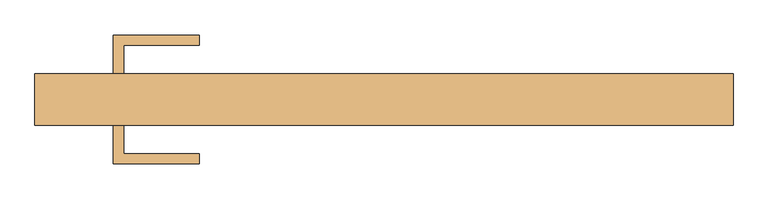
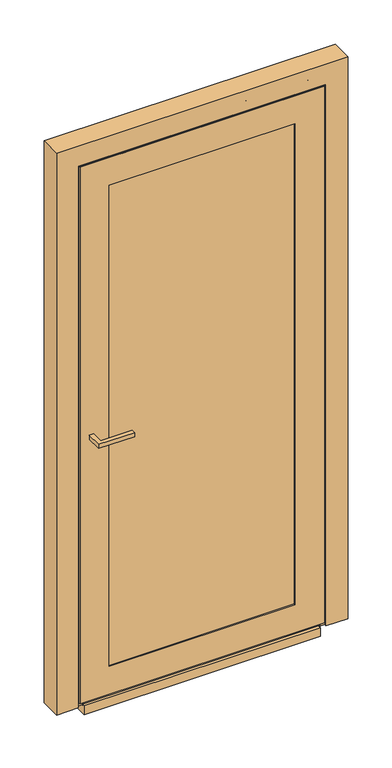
"""IFC4 building model written with IfcOpenShell, lengths in millimetres: door geometry, Reynaers_MasterLine 8_Door_Pivot_Inward Opening_Single Vent_Glass : Reynaers_MasterLine 8_Door_Pivot_Inward Opening_Single Vent_Glass."""

from ifc_helpers import new_model, si_unit, frame, origin, place, context, project, spatial, polyline, circle_curve, ellipse_curve, outline, extrude, faceted_brep, source, transform, mapped, element, save
from ifc_brep_helpers import plane_surface, revolved_surface, advanced_brep


def door_3bcb3462(model_context):
    return source(origin(), model_context, "Body", "SolidModel", [
        extrude(outline(polyline([(-403.0, -80.0), (-388.0, -80.0), (-388.0, -122.5), (-275.5, -122.5), (-275.5, -137.5), (-403.0, -137.5), (-403.0, -80.0)])), frame((0.0, 0.0, 1000.0), z_axis=(0.0, 0.0, 1.0), x_axis=(1.0, 0.0, 0.0)), (0.0, 0.0, 1.0), 15.0),
        extrude(outline(polyline([(-403.0, -3.0), (-403.0, 54.5), (-275.5, 54.5), (-275.5, 39.5), (-388.0, 39.5), (-388.0, -3.0), (-403.0, -3.0)])), frame((0.0, 0.0, 1000.0), z_axis=(0.0, 0.0, 1.0), x_axis=(1.0, 0.0, 0.0)), (0.0, 0.0, 1.0), 15.0),
        advanced_brep(
        [(-444.4999999, -71.1998182, 0.0), (-444.4999999, -13.5000019, 0.0), (-447.5000018, -13.5000019, 0.0), (-447.5000018, -4.7990019, 0.0), (-452.5005018, -4.7990019, 0.0), (-452.5005018, -6.8000019, 0.0), (-462.5005018, -6.8000019, 0.0), (-462.5005018, -3.0, 0.0), (-416.5000018, -3.0, 0.0), (-416.5000018, -11.8001867, 0.0), (-418.6670221, -11.8001867, 0.0), (-421.4999998, -12.9155527, 0.0), (-421.4999998, -74.9998182, 0.0), (-423.6999999, -74.9998182, 0.0), (-423.6999999, -71.1998182, 0.0), (200.0, -71.1998182, 2044.4999999), (200.0, -71.1998182, 2023.6999999), (200.0, -74.9998182, 2023.6999999), (200.0, -74.9998182, 2021.4999998), (200.0, -12.9155527, 2021.4999998), (200.0, -11.8001867, 2018.6670221), (200.0, -11.8001867, 2016.5000018), (200.0, -3.0, 2016.5000018), (200.0, -3.0, 2047.5000018), (200.0, -13.5000019, 2047.5000018), (200.0, -13.5000019, 2044.4999999), (-423.6999999, -71.1998182, 2023.6999999), (-423.6999999, -74.9998182, 2023.6999999), (-421.4999998, -74.9998182, 2021.4999998), (-421.4999998, -12.9155527, 2021.4999998), (-418.6670221, -11.8001867, 2018.6670221), (-416.5000018, -11.8001867, 2016.5000018), (-416.5000018, -3.0, 2016.5000018), (-462.5005018, -6.8000019, 2062.5005018), (123.0, -6.8000019, 2062.5005018), (123.0, -3.0, 2062.5005018), (-462.5005018, -3.0, 2062.5005018), (-452.5005018, -4.7990019, 2052.5005018), (123.0, -4.7990019, 2052.5005018), (123.0, -6.8000019, 2052.5005018), (-452.5005018, -6.8000019, 2052.5005018), (123.0, -3.0, 2047.5000018), (123.0, -4.7990019, 2047.5000018), (-447.5000018, -4.7990019, 2047.5000018), (-447.5000018, -13.5000019, 2047.5000018), (-444.4999999, -13.5000019, 2044.4999999), (-444.4999999, -71.1998182, 2044.4999999)],
        [
            (0, 1),
            (1, 2),
            (2, 3),
            (3, 4),
            (4, 5),
            (5, 6),
            (6, 7),
            (7, 8),
            (8, 9),
            (9, 10),
            (10, 11, circle_curve(frame((-420.500002, -11.3000019, 0.0), z_axis=(0.0, 0.0, 1.0), x_axis=(1.0, 0.0, 0.0)), 1.9)),
            (11, 12),
            (12, 13),
            (13, 14),
            (14, 0),
            (15, 16),
            (16, 17),
            (17, 18),
            (18, 19),
            (19, 20, circle_curve(frame((200.0, -11.3000019, 2020.500002), z_axis=(-1.0, 0.0, 0.0), x_axis=(0.0, 0.0, -1.0)), 1.9)),
            (20, 21),
            (21, 22),
            (22, 23),
            (23, 24),
            (24, 25),
            (25, 15),
            (16, 26),
            (26, 27),
            (27, 17),
            (18, 28),
            (28, 29),
            (29, 19),
            (29, 30, ellipse_curve(frame((-420.500002, -11.3000019, 2020.500002), z_axis=(-0.7071067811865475, 0.0, -0.7071067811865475), x_axis=(0.7071067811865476, 0.0, -0.7071067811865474)), 2.6870058, 1.9)),
            (30, 20),
            (21, 31),
            (31, 32),
            (32, 22),
            (33, 34),
            (34, 35),
            (35, 36),
            (36, 33),
            (37, 38),
            (38, 39),
            (39, 40),
            (40, 37),
            (23, 41),
            (41, 42),
            (42, 43),
            (43, 44),
            (44, 24),
            (25, 45),
            (45, 46),
            (46, 15),
            (14, 26),
            (46, 0),
            (13, 27),
            (12, 28),
            (11, 29),
            (10, 30),
            (9, 31),
            (8, 32),
            (7, 36),
            (35, 41),
            (6, 33),
            (5, 40),
            (39, 34),
            (4, 37),
            (3, 43),
            (42, 38),
            (2, 44),
            (1, 45),
        ],
        [
            plane_surface(frame((-436.5, -3.0, 0.0), z_axis=(0.0, 0.0, -1.0), x_axis=(0.0, -1.0, 0.0))),
            plane_surface(frame((200.0, -3.0, 2036.5), z_axis=(1.0, 0.0, 0.0), x_axis=(0.0, -1.0, 0.0))),
            plane_surface(frame((-423.6999999, -71.1998182, 2023.6999999), z_axis=(0.0, 0.0, 1.0), x_axis=(1.0, 0.0, 0.0))),
            plane_surface(frame((-421.4999998, -74.9998182, 2021.4999998), z_axis=(0.0, 0.0, -1.0), x_axis=(1.0, 0.0, 0.0))),
            revolved_surface(polyline([(200.0, -11.3000019, 2018.600002), (-422.4000020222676, -11.3000019, 2018.600002)]), (-436.5, -11.3000019, 2020.500002), (1.0, 0.0, 0.0)),
            plane_surface(frame((-416.5000018, -11.8001867, 2016.5000018), z_axis=(0.0, 0.0, -1.0), x_axis=(1.0, 0.0, 0.0))),
            plane_surface(frame((-462.5005018, -3.0, 2062.5005018), z_axis=(0.0, 0.0, 1.0), x_axis=(1.0, 0.0, 0.0))),
            plane_surface(frame((-452.5005018, -6.8000019, 2052.5005018), z_axis=(0.0, 0.0, -1.0), x_axis=(1.0, 0.0, 0.0))),
            plane_surface(frame((-447.5000018, -4.7990019, 2047.5000018), z_axis=(0.0, 0.0, 1.0), x_axis=(1.0, 0.0, 0.0))),
            plane_surface(frame((-444.4999999, -13.5000019, 2044.4999999), z_axis=(0.0, 0.0, 1.0), x_axis=(1.0, 0.0, 0.0))),
            plane_surface(frame((-444.4999999, -71.1998182, 0.0), z_axis=(0.0, -1.0, 0.0), x_axis=(0.0, 0.0, 1.0))),
            plane_surface(frame((-423.6999999, -71.1998182, 0.0), z_axis=(-1.0, 0.0, 0.0), x_axis=(0.0, 0.0, 1.0))),
            plane_surface(frame((-423.6999999, -74.9998182, 0.0), z_axis=(0.0, -1.0, 0.0), x_axis=(0.0, 0.0, 1.0))),
            plane_surface(frame((-421.4999998, -74.9998182, 0.0), z_axis=(1.0, 0.0, 0.0), x_axis=(0.0, 0.0, 1.0))),
            revolved_surface(polyline([(-418.600002, -11.3000019, 2022.4000020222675), (-418.600002, -11.3000019, 0.0)]), (-420.500002, -11.3000019, 0.0), (0.0, 0.0, 1.0)),
            plane_surface(frame((-418.6670221, -11.8001867, 0.0), z_axis=(0.0, -1.0, 0.0), x_axis=(0.0, 0.0, 1.0))),
            plane_surface(frame((-416.5000018, -11.8001867, 0.0), z_axis=(1.0, 0.0, 0.0), x_axis=(0.0, 0.0, 1.0))),
            plane_surface(frame((-416.5000018, -3.0, 0.0), z_axis=(0.0, 1.0, 0.0), x_axis=(0.0, 0.0, 1.0))),
            plane_surface(frame((-462.5005018, -3.0, 0.0), z_axis=(-1.0, 0.0, 0.0), x_axis=(0.0, 0.0, 1.0))),
            plane_surface(frame((-462.5005018, -6.8000019, 0.0), z_axis=(0.0, -1.0, 0.0), x_axis=(0.0, 0.0, 1.0))),
            plane_surface(frame((-452.5005018, -6.8000019, 0.0), z_axis=(1.0, 0.0, 0.0), x_axis=(0.0, 0.0, 1.0))),
            plane_surface(frame((-452.5005018, -4.7990019, 0.0), z_axis=(0.0, -1.0, 0.0), x_axis=(0.0, 0.0, 1.0))),
            plane_surface(frame((-447.5000018, -4.7990019, 0.0), z_axis=(-1.0, 0.0, 0.0), x_axis=(0.0, 0.0, 1.0))),
            plane_surface(frame((-447.5000018, -13.5000019, 0.0), z_axis=(0.0, -1.0, 0.0), x_axis=(0.0, 0.0, 1.0))),
            plane_surface(frame((-444.4999999, -13.5000019, 0.0), z_axis=(-1.0, 0.0, 0.0), x_axis=(0.0, 0.0, 1.0))),
            plane_surface(frame((123.0, -3.0, 2036.5), z_axis=(1.0, 0.0, 0.0), x_axis=(0.0, -1.0, 0.0))),
        ],
        [
            (0, [[1, 2, 3, 4, 5, 6, 7, 8, 9, 10, 11, 12, 13, 14, 15]]),
            (1, [[16, 17, 18, 19, 20, 21, 22, 23, 24, 25, 26]]),
            (2, [[27, 28, 29, -17]]),
            (3, [[30, 31, 32, -19]]),
            (4, [[-32, 33, 34, -20]]),
            (5, [[35, 36, 37, -22]]),
            (6, [[38, 39, 40, 41]]),
            (7, [[42, 43, 44, 45]]),
            (8, [[-24, 46, 47, 48, 49, 50]]),
            (9, [[51, 52, 53, -26]]),
            (10, [[54, -27, -16, -53, 55, -15]]),
            (11, [[56, -28, -54, -14]]),
            (12, [[57, -30, -18, -29, -56, -13]]),
            (13, [[58, -31, -57, -12]]),
            (14, [[59, -33, -58, -11]]),
            (15, [[60, -35, -21, -34, -59, -10]]),
            (16, [[61, -36, -60, -9]]),
            (17, [[62, -40, 63, -46, -23, -37, -61, -8]]),
            (18, [[64, -41, -62, -7]]),
            (19, [[65, -44, 66, -38, -64, -6]]),
            (20, [[67, -45, -65, -5]]),
            (21, [[68, -48, 69, -42, -67, -4]]),
            (22, [[70, -49, -68, -3]]),
            (23, [[71, -51, -25, -50, -70, -2]]),
            (24, [[-55, -52, -71, -1]]),
            (25, [[-63, -39, -66, -43, -69, -47]]),
        ],
    ),
        advanced_brep(
        [(-444.4999999, -71.1998182, 0.0), (-444.4999999, -13.5000019, 0.0), (-447.5000018, -13.5000019, 0.0), (-447.5000018, -4.7990019, 0.0), (-452.5005018, -4.7990019, 0.0), (-452.5005018, -6.8000019, 0.0), (-462.5005018, -6.8000019, 0.0), (-462.5005018, -3.0, 0.0), (-416.5000018, -3.0, 0.0), (-416.5000018, -11.8001867, 0.0), (-418.6670221, -11.8001867, 0.0), (-421.4999998, -12.9155527, 0.0), (-421.4999998, -74.9998182, 0.0), (-423.6999999, -74.9998182, 0.0), (-423.6999999, -71.1998182, 0.0), (200.0, -71.1998182, 2044.4999999), (200.0, -71.1998182, 2023.6999999), (200.0, -74.9998182, 2023.6999999), (200.0, -74.9998182, 2021.4999998), (200.0, -12.9155527, 2021.4999998), (200.0, -11.8001867, 2018.6670221), (200.0, -11.8001867, 2016.5000018), (200.0, -3.0, 2016.5000018), (200.0, -3.0, 2047.5000018), (200.0, -13.5000019, 2047.5000018), (200.0, -13.5000019, 2044.4999999), (-423.6999999, -71.1998182, 2023.6999999), (-423.6999999, -74.9998182, 2023.6999999), (-421.4999998, -74.9998182, 2021.4999998), (-421.4999998, -12.9155527, 2021.4999998), (-418.6670221, -11.8001867, 2018.6670221), (-416.5000018, -11.8001867, 2016.5000018), (-416.5000018, -3.0, 2016.5000018), (-462.5005018, -6.8000019, 2062.5005018), (123.0, -6.8000019, 2062.5005018), (123.0, -3.0, 2062.5005018), (-462.5005018, -3.0, 2062.5005018), (-452.5005018, -4.7990019, 2052.5005018), (123.0, -4.7990019, 2052.5005018), (123.0, -6.8000019, 2052.5005018), (-452.5005018, -6.8000019, 2052.5005018), (123.0, -3.0, 2047.5000018), (123.0, -4.7990019, 2047.5000018), (-447.5000018, -4.7990019, 2047.5000018), (-447.5000018, -13.5000019, 2047.5000018), (-444.4999999, -13.5000019, 2044.4999999), (-444.4999999, -71.1998182, 2044.4999999)],
        [
            (0, 1),
            (1, 2),
            (2, 3),
            (3, 4),
            (4, 5),
            (5, 6),
            (6, 7),
            (7, 8),
            (8, 9),
            (9, 10),
            (10, 11, circle_curve(frame((-420.500002, -11.3000019, 0.0), z_axis=(0.0, 0.0, 1.0), x_axis=(1.0, 0.0, 0.0)), 1.9)),
            (11, 12),
            (12, 13),
            (13, 14),
            (14, 0),
            (15, 16),
            (16, 17),
            (17, 18),
            (18, 19),
            (19, 20, circle_curve(frame((200.0, -11.3000019, 2020.500002), z_axis=(-1.0, 0.0, 0.0), x_axis=(0.0, 0.0, -1.0)), 1.9)),
            (20, 21),
            (21, 22),
            (22, 23),
            (23, 24),
            (24, 25),
            (25, 15),
            (16, 26),
            (26, 27),
            (27, 17),
            (18, 28),
            (28, 29),
            (29, 19),
            (29, 30, ellipse_curve(frame((-420.500002, -11.3000019, 2020.500002), z_axis=(-0.7071067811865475, 0.0, -0.7071067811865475), x_axis=(0.7071067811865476, 0.0, -0.7071067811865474)), 2.6870058, 1.9)),
            (30, 20),
            (21, 31),
            (31, 32),
            (32, 22),
            (33, 34),
            (34, 35),
            (35, 36),
            (36, 33),
            (37, 38),
            (38, 39),
            (39, 40),
            (40, 37),
            (23, 41),
            (41, 42),
            (42, 43),
            (43, 44),
            (44, 24),
            (25, 45),
            (45, 46),
            (46, 15),
            (14, 26),
            (46, 0),
            (13, 27),
            (12, 28),
            (11, 29),
            (10, 30),
            (9, 31),
            (8, 32),
            (7, 36),
            (35, 41),
            (6, 33),
            (5, 40),
            (39, 34),
            (4, 37),
            (3, 43),
            (42, 38),
            (2, 44),
            (1, 45),
        ],
        [
            plane_surface(frame((-436.5, -3.0, 0.0), z_axis=(0.0, 0.0, -1.0), x_axis=(0.0, -1.0, 0.0))),
            plane_surface(frame((200.0, -3.0, 2036.5), z_axis=(1.0, 0.0, 0.0), x_axis=(0.0, -1.0, 0.0))),
            plane_surface(frame((-423.6999999, -71.1998182, 2023.6999999), z_axis=(0.0, 0.0, 1.0), x_axis=(1.0, 0.0, 0.0))),
            plane_surface(frame((-421.4999998, -74.9998182, 2021.4999998), z_axis=(0.0, 0.0, -1.0), x_axis=(1.0, 0.0, 0.0))),
            revolved_surface(polyline([(200.0, -11.3000019, 2018.600002), (-422.4000020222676, -11.3000019, 2018.600002)]), (-436.5, -11.3000019, 2020.500002), (1.0, 0.0, 0.0)),
            plane_surface(frame((-416.5000018, -11.8001867, 2016.5000018), z_axis=(0.0, 0.0, -1.0), x_axis=(1.0, 0.0, 0.0))),
            plane_surface(frame((-462.5005018, -3.0, 2062.5005018), z_axis=(0.0, 0.0, 1.0), x_axis=(1.0, 0.0, 0.0))),
            plane_surface(frame((-452.5005018, -6.8000019, 2052.5005018), z_axis=(0.0, 0.0, -1.0), x_axis=(1.0, 0.0, 0.0))),
            plane_surface(frame((-447.5000018, -4.7990019, 2047.5000018), z_axis=(0.0, 0.0, 1.0), x_axis=(1.0, 0.0, 0.0))),
            plane_surface(frame((-444.4999999, -13.5000019, 2044.4999999), z_axis=(0.0, 0.0, 1.0), x_axis=(1.0, 0.0, 0.0))),
            plane_surface(frame((-444.4999999, -71.1998182, 0.0), z_axis=(0.0, -1.0, 0.0), x_axis=(0.0, 0.0, 1.0))),
            plane_surface(frame((-423.6999999, -71.1998182, 0.0), z_axis=(-1.0, 0.0, 0.0), x_axis=(0.0, 0.0, 1.0))),
            plane_surface(frame((-423.6999999, -74.9998182, 0.0), z_axis=(0.0, -1.0, 0.0), x_axis=(0.0, 0.0, 1.0))),
            plane_surface(frame((-421.4999998, -74.9998182, 0.0), z_axis=(1.0, 0.0, 0.0), x_axis=(0.0, 0.0, 1.0))),
            revolved_surface(polyline([(-418.600002, -11.3000019, 2022.4000020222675), (-418.600002, -11.3000019, 0.0)]), (-420.500002, -11.3000019, 0.0), (0.0, 0.0, 1.0)),
            plane_surface(frame((-418.6670221, -11.8001867, 0.0), z_axis=(0.0, -1.0, 0.0), x_axis=(0.0, 0.0, 1.0))),
            plane_surface(frame((-416.5000018, -11.8001867, 0.0), z_axis=(1.0, 0.0, 0.0), x_axis=(0.0, 0.0, 1.0))),
            plane_surface(frame((-416.5000018, -3.0, 0.0), z_axis=(0.0, 1.0, 0.0), x_axis=(0.0, 0.0, 1.0))),
            plane_surface(frame((-462.5005018, -3.0, 0.0), z_axis=(-1.0, 0.0, 0.0), x_axis=(0.0, 0.0, 1.0))),
            plane_surface(frame((-462.5005018, -6.8000019, 0.0), z_axis=(0.0, -1.0, 0.0), x_axis=(0.0, 0.0, 1.0))),
            plane_surface(frame((-452.5005018, -6.8000019, 0.0), z_axis=(1.0, 0.0, 0.0), x_axis=(0.0, 0.0, 1.0))),
            plane_surface(frame((-452.5005018, -4.7990019, 0.0), z_axis=(0.0, -1.0, 0.0), x_axis=(0.0, 0.0, 1.0))),
            plane_surface(frame((-447.5000018, -4.7990019, 0.0), z_axis=(-1.0, 0.0, 0.0), x_axis=(0.0, 0.0, 1.0))),
            plane_surface(frame((-447.5000018, -13.5000019, 0.0), z_axis=(0.0, -1.0, 0.0), x_axis=(0.0, 0.0, 1.0))),
            plane_surface(frame((-444.4999999, -13.5000019, 0.0), z_axis=(-1.0, 0.0, 0.0), x_axis=(0.0, 0.0, 1.0))),
            plane_surface(frame((123.0, -3.0, 2036.5), z_axis=(1.0, 0.0, 0.0), x_axis=(0.0, -1.0, 0.0))),
        ],
        [
            (0, [[1, 2, 3, 4, 5, 6, 7, 8, 9, 10, 11, 12, 13, 14, 15]]),
            (1, [[16, 17, 18, 19, 20, 21, 22, 23, 24, 25, 26]]),
            (2, [[27, 28, 29, -17]]),
            (3, [[30, 31, 32, -19]]),
            (4, [[-32, 33, 34, -20]]),
            (5, [[35, 36, 37, -22]]),
            (6, [[38, 39, 40, 41]]),
            (7, [[42, 43, 44, 45]]),
            (8, [[-24, 46, 47, 48, 49, 50]]),
            (9, [[51, 52, 53, -26]]),
            (10, [[54, -27, -16, -53, 55, -15]]),
            (11, [[56, -28, -54, -14]]),
            (12, [[57, -30, -18, -29, -56, -13]]),
            (13, [[58, -31, -57, -12]]),
            (14, [[59, -33, -58, -11]]),
            (15, [[60, -35, -21, -34, -59, -10]]),
            (16, [[61, -36, -60, -9]]),
            (17, [[62, -40, 63, -46, -23, -37, -61, -8]]),
            (18, [[64, -41, -62, -7]]),
            (19, [[65, -44, 66, -38, -64, -6]]),
            (20, [[67, -45, -65, -5]]),
            (21, [[68, -48, 69, -42, -67, -4]]),
            (22, [[70, -49, -68, -3]]),
            (23, [[71, -51, -25, -50, -70, -2]]),
            (24, [[-55, -52, -71, -1]]),
            (25, [[-63, -39, -66, -43, -69, -47]]),
        ],
    ),
        advanced_brep(
        [(123.0, -3.0, 2062.5005018), (123.0, -3.0, 2047.5000018), (123.0, -4.7990019, 2047.5000018), (123.0, -4.7990019, 2052.5005018), (123.0, -6.8000019, 2052.5005018), (123.0, -6.8000019, 2062.5005018), (444.4999999, -71.1998182, 0.0), (423.6999999, -71.1998182, 0.0), (423.6999999, -74.9998182, 0.0), (421.4999998, -74.9998182, 0.0), (421.4999998, -12.9155527, 0.0), (418.6670221, -11.8001867, 0.0), (416.5000018, -11.8001867, 0.0), (416.5000018, -3.0, 0.0), (462.5005018, -3.0, 0.0), (462.5005018, -6.8000019, 0.0), (452.5005018, -6.8000019, 0.0), (452.5005018, -4.7990019, 0.0), (447.5000018, -4.7990019, 0.0), (447.5000018, -13.5000019, 0.0), (444.4999999, -13.5000019, 0.0), (444.4999999, -71.1998182, 2044.4999999), (200.0, -71.1998182, 2044.4999999), (200.0, -71.1998182, 2023.6999999), (423.6999999, -71.1998182, 2023.6999999), (200.0, -74.9998182, 2023.6999999), (423.6999999, -74.9998182, 2023.6999999), (200.0, -74.9998182, 2021.4999998), (421.4999998, -74.9998182, 2021.4999998), (200.0, -12.9155527, 2021.4999998), (421.4999998, -12.9155527, 2021.4999998), (200.0, -11.8001867, 2018.6670221), (418.6670221, -11.8001867, 2018.6670221), (200.0, -11.8001867, 2016.5000018), (416.5000018, -11.8001867, 2016.5000018), (200.0, -3.0, 2016.5000018), (416.5000018, -3.0, 2016.5000018), (200.0, -3.0, 2047.5000018), (462.5005018, -3.0, 2062.5005018), (462.5005018, -6.8000019, 2062.5005018), (452.5005018, -6.8000019, 2052.5005018), (452.5005018, -4.7990019, 2052.5005018), (200.0, -4.7990019, 2047.5000018), (447.5000018, -4.7990019, 2047.5000018), (200.0, -13.5000019, 2047.5000018), (447.5000018, -13.5000019, 2047.5000018), (200.0, -13.5000019, 2044.4999999), (444.4999999, -13.5000019, 2044.4999999)],
        [
            (0, 1),
            (1, 2),
            (2, 3),
            (3, 4),
            (4, 5),
            (5, 0),
            (6, 7),
            (7, 8),
            (8, 9),
            (9, 10),
            (10, 11, circle_curve(frame((420.500002, -11.3000019, 0.0), z_axis=(0.0, 0.0, 1.0), x_axis=(-1.0, 0.0, 0.0)), 1.9)),
            (11, 12),
            (12, 13),
            (13, 14),
            (14, 15),
            (15, 16),
            (16, 17),
            (17, 18),
            (18, 19),
            (19, 20),
            (20, 6),
            (6, 21),
            (21, 22),
            (22, 23),
            (23, 24),
            (24, 7),
            (23, 25),
            (25, 26),
            (26, 24),
            (8, 26),
            (25, 27),
            (27, 28),
            (28, 9),
            (27, 29),
            (29, 30),
            (30, 28),
            (29, 31, circle_curve(frame((200.0, -11.3000019, 2020.500002), z_axis=(-1.0, 0.0, 0.0), x_axis=(0.0, 0.0, -1.0)), 1.9)),
            (31, 32),
            (32, 30, ellipse_curve(frame((420.500002, -11.3000019, 2020.500002), z_axis=(0.7071067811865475, 0.0, -0.7071067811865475), x_axis=(0.7071067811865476, 0.0, 0.7071067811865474)), 2.6870058, 1.9)),
            (11, 32),
            (31, 33),
            (33, 34),
            (34, 12),
            (33, 35),
            (35, 36),
            (36, 34),
            (13, 36),
            (35, 37),
            (37, 1),
            (0, 38),
            (38, 14),
            (5, 39),
            (39, 38),
            (4, 40),
            (40, 16),
            (15, 39),
            (3, 41),
            (41, 40),
            (2, 42),
            (42, 43),
            (43, 18),
            (17, 41),
            (42, 44),
            (44, 45),
            (45, 43),
            (19, 45),
            (44, 46),
            (46, 47),
            (47, 20),
            (46, 22),
            (21, 47),
            (30, 10),
            (42, 37),
        ],
        [
            plane_surface(frame((123.0, -3.0, 2036.5), z_axis=(-1.0, 0.0, 0.0), x_axis=(0.0, -1.0, 0.0))),
            plane_surface(frame((436.5, -3.0, 0.0), z_axis=(0.0, 0.0, -1.0), x_axis=(0.0, -1.0, 0.0))),
            plane_surface(frame((123.0, -71.1998182, 2044.4999999), z_axis=(0.0, -1.0, 0.0), x_axis=(1.0, 0.0, 0.0))),
            plane_surface(frame((123.0, -71.1998182, 2023.6999999), z_axis=(0.0, 0.0, 1.0), x_axis=(1.0, 0.0, 0.0))),
            plane_surface(frame((123.0, -74.9998182, 2023.6999999), z_axis=(0.0, -1.0, 0.0), x_axis=(1.0, 0.0, 0.0))),
            plane_surface(frame((123.0, -74.9998182, 2021.4999998), z_axis=(0.0, 0.0, -1.0), x_axis=(1.0, 0.0, 0.0))),
            revolved_surface(polyline([(422.4000020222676, -11.3000019, 2018.600002), (200.0, -11.3000019, 2018.600002)]), (123.0, -11.3000019, 2020.500002), (1.0, 0.0, 0.0)),
            plane_surface(frame((123.0, -11.8001867, 2018.6670221), z_axis=(0.0, -1.0, 0.0), x_axis=(1.0, 0.0, 0.0))),
            plane_surface(frame((123.0, -11.8001867, 2016.5000018), z_axis=(0.0, 0.0, -1.0), x_axis=(1.0, 0.0, 0.0))),
            plane_surface(frame((123.0, -3.0, 2016.5000018), z_axis=(0.0, 1.0, 0.0), x_axis=(1.0, 0.0, 0.0))),
            plane_surface(frame((123.0, -3.0, 2062.5005018), z_axis=(0.0, 0.0, 1.0), x_axis=(1.0, 0.0, 0.0))),
            plane_surface(frame((123.0, -6.8000019, 2062.5005018), z_axis=(0.0, -1.0, 0.0), x_axis=(1.0, 0.0, 0.0))),
            plane_surface(frame((123.0, -6.8000019, 2052.5005018), z_axis=(0.0, 0.0, -1.0), x_axis=(1.0, 0.0, 0.0))),
            plane_surface(frame((123.0, -4.7990019, 2052.5005018), z_axis=(0.0, -1.0, 0.0), x_axis=(1.0, 0.0, 0.0))),
            plane_surface(frame((123.0, -4.7990019, 2047.5000018), z_axis=(0.0, 0.0, 1.0), x_axis=(1.0, 0.0, 0.0))),
            plane_surface(frame((123.0, -13.5000019, 2047.5000018), z_axis=(0.0, -1.0, 0.0), x_axis=(1.0, 0.0, 0.0))),
            plane_surface(frame((123.0, -13.5000019, 2044.4999999), z_axis=(0.0, 0.0, 1.0), x_axis=(1.0, 0.0, 0.0))),
            plane_surface(frame((423.6999999, -71.1998182, 2023.6999999), z_axis=(1.0, 0.0, 0.0), x_axis=(0.0, 0.0, -1.0))),
            plane_surface(frame((421.4999998, -74.9998182, 2021.4999998), z_axis=(-1.0, 0.0, 0.0), x_axis=(0.0, 0.0, -1.0))),
            revolved_surface(polyline([(418.600002, -11.3000019, 0.0), (418.600002, -11.3000019, 2022.4000020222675)]), (420.500002, -11.3000019, 2036.5), (0.0, 0.0, -1.0)),
            plane_surface(frame((416.5000018, -11.8001867, 2016.5000018), z_axis=(-1.0, 0.0, 0.0), x_axis=(0.0, 0.0, -1.0))),
            plane_surface(frame((462.5005018, -3.0, 2062.5005018), z_axis=(1.0, 0.0, 0.0), x_axis=(0.0, 0.0, -1.0))),
            plane_surface(frame((452.5005018, -6.8000019, 2052.5005018), z_axis=(-1.0, 0.0, 0.0), x_axis=(0.0, 0.0, -1.0))),
            plane_surface(frame((447.5000018, -4.7990019, 2047.5000018), z_axis=(1.0, 0.0, 0.0), x_axis=(0.0, 0.0, -1.0))),
            plane_surface(frame((444.4999999, -13.5000019, 2044.4999999), z_axis=(1.0, 0.0, 0.0), x_axis=(0.0, 0.0, -1.0))),
            plane_surface(frame((200.0, -3.0, 2036.5), z_axis=(-1.0, 0.0, 0.0), x_axis=(0.0, -1.0, 0.0))),
            plane_surface(frame((123.0, -3.0, 2047.5000018), z_axis=(0.0, 0.0, -1.0), x_axis=(1.0, 0.0, 0.0))),
        ],
        [
            (0, [[1, 2, 3, 4, 5, 6]]),
            (1, [[7, 8, 9, 10, 11, 12, 13, 14, 15, 16, 17, 18, 19, 20, 21]]),
            (2, [[22, 23, 24, 25, 26, -7]]),
            (3, [[-25, 27, 28, 29]]),
            (4, [[30, -28, 31, 32, 33, -9]]),
            (5, [[-32, 34, 35, 36]]),
            (6, [[-35, 37, 38, 39]]),
            (7, [[40, -38, 41, 42, 43, -12]]),
            (8, [[-42, 44, 45, 46]]),
            (9, [[47, -45, 48, 49, -1, 50, 51, -14]]),
            (10, [[52, 53, -50, -6]]),
            (11, [[54, 55, -16, 56, -52, -5]]),
            (12, [[57, 58, -54, -4]]),
            (13, [[59, 60, 61, -18, 62, -57, -3]]),
            (14, [[-60, 63, 64, 65]]),
            (15, [[66, -64, 67, 68, 69, -20]]),
            (16, [[-68, 70, -23, 71]]),
            (17, [[-26, -29, -30, -8]]),
            (18, [[-33, -36, 72, -10]]),
            (19, [[-72, -39, -40, -11]]),
            (20, [[-43, -46, -47, -13]]),
            (21, [[-51, -53, -56, -15]]),
            (22, [[-55, -58, -62, -17]]),
            (23, [[-61, -65, -66, -19]]),
            (24, [[-69, -71, -22, -21]]),
            (25, [[-48, -44, -41, -37, -34, -31, -27, -24, -70, -67, -63, 73]]),
            (26, [[-59, -2, -49, -73]]),
        ],
    ),
        extrude(outline(polyline([(-3.0, 40.0000014), (-3.0, 7.0), (-4.5999991, 7.0), (-4.5999991, 20.9999991), (-40.5000003, 20.9999991), (-40.5000003, 29.0000002), (-11.8001867, 29.0000002), (-11.8001867, 40.0000014), (-3.0, 40.0000014)])), frame((-410.4999986, 0.0, 0.0), z_axis=(1.0, 0.0, 0.0), x_axis=(0.0, 1.0, 0.0)), (0.0, 0.0, 1.0), 820.9999971),
        extrude(outline(polyline([(91.5, 359.0), (1959.0, 359.0), (1959.0, -359.0), (91.5, -359.0), (91.5, 359.0)]), holes=[polyline([(116.5000004, -333.9999996), (1933.9999996, -333.9999996), (1933.9999996, 333.9999996), (116.5000004, 333.9999996), (116.5000004, -333.9999996)])]), frame((0.0, -45.0, 0.0), z_axis=(0.0, 1.0, 0.0), x_axis=(0.0, 0.0, 1.0)), (0.0, 0.0, 1.0), 42.0),
        extrude(outline(polyline([(-69.0499782, 29.0000002), (-45.0499779, 29.0000002), (-45.0499779, 0.0), (-3.0, 0.0), (-3.0, -33.0), (-80.0, -33.0), (-80.0, 0.0), (-69.0499782, 0.0), (-69.0499782, 29.0000002)])), frame((-421.4999998, 0.0, 0.0), z_axis=(1.0, 0.0, 0.0), x_axis=(0.0, 1.0, 0.0)), (0.0, 0.0, 1.0), 842.9999996),
        faceted_brep([(-442.5, -80.0, 0.0), (-520.0, -80.0, 0.0), (-520.0, -3.0, 0.0), (-468.5, -3.0, 0.0), (-468.5, -11.8001837, 0.0), (-457.5, -11.8001837, 0.0), (-457.5, -76.2, 0.0), (-442.5, -76.2, 0.0), (442.5, -80.0, 0.0), (442.5, -76.2, 0.0), (457.5, -76.2, 0.0), (457.5, -11.8001837, 0.0), (468.5, -11.8001837, 0.0), (468.5, -3.0, 0.0), (520.0, -3.0, 0.0), (520.0, -80.0, 0.0), (-442.5, -76.2, 2042.5), (-442.5, -80.0, 2042.5), (-457.5, -76.2, 2057.5), (457.5, -76.2, 2057.5), (442.5, -76.2, 2042.5), (-457.5, -11.8001837, 2057.5), (-468.5, -11.8001837, 2068.5), (468.5, -11.8001837, 2068.5), (457.5, -11.8001837, 2057.5), (-468.5, -3.0, 2068.5), (-520.0, -3.0, 2120.0), (520.0, -3.0, 2120.0), (468.5, -3.0, 2068.5), (-520.0, -80.0, 2120.0), (442.5, -80.0, 2042.5), (520.0, -80.0, 2120.0)], [[[0, 1, 2, 3, 4, 5, 6, 7]], [[8, 9, 10, 11, 12, 13, 14, 15]], [[7, 16, 17, 0]], [[6, 18, 19, 10, 9, 20, 16, 7]], [[5, 21, 18, 6]], [[4, 22, 23, 12, 11, 24, 21, 5]], [[3, 25, 22, 4]], [[2, 26, 27, 14, 13, 28, 25, 3]], [[1, 29, 26, 2]], [[0, 17, 30, 8, 15, 31, 29, 1]], [[16, 20, 30, 17]], [[21, 24, 19, 18]], [[25, 28, 23, 22]], [[29, 31, 27, 26]], [[20, 9, 8, 30]], [[24, 11, 10, 19]], [[28, 13, 12, 23]], [[31, 15, 14, 27]]]),
        faceted_brep([(-421.4999998, -76.2001837, 29.0000002), (-421.4999998, -76.2001837, 2021.4999998), (-421.4999998, -11.8001867, 2021.4999998), (-421.4999998, -11.8001867, 29.0000002), (-436.4999997, -80.0, 14.0000003), (-436.4999997, -80.0, 2036.4999997), (-436.4999997, -76.2001837, 2036.4999997), (-436.4999997, -76.2001837, 14.0000003), (-331.9999997, -76.0, 118.5000003), (-331.9999997, -76.0, 1931.9999997), (-331.9999997, -80.0, 1931.9999997), (-331.9999997, -80.0, 118.5000003), (-359.0000003, -3.0, 91.4999997), (-359.0000003, -3.0, 1959.0000003), (-359.0000003, -76.0, 1959.0000003), (-359.0000003, -76.0, 91.4999997), (-410.4999986, -11.8001867, 40.0000014), (-410.4999986, -11.8001867, 2010.4999986), (-410.4999986, -3.0, 2010.4999986), (-410.4999986, -3.0, 40.0000014), (421.4999998, -76.2001837, 2021.4999998), (421.4999998, -11.8001867, 2021.4999998), (436.4999997, -80.0, 2036.4999997), (436.4999997, -76.2001837, 2036.4999997), (331.9999997, -76.0, 1931.9999997), (331.9999997, -80.0, 1931.9999997), (359.0000003, -3.0, 1959.0000003), (359.0000003, -76.0, 1959.0000003), (410.4999986, -11.8001867, 2010.4999986), (410.4999986, -3.0, 2010.4999986), (421.4999998, -76.2001837, 29.0000002), (421.4999998, -11.8001867, 29.0000002), (436.4999997, -80.0, 14.0000003), (436.4999997, -76.2001837, 14.0000003), (331.9999997, -76.0, 118.5000003), (331.9999997, -80.0, 118.5000003), (359.0000003, -3.0, 91.4999997), (359.0000003, -76.0, 91.4999997), (410.4999986, -11.8001867, 40.0000014), (410.4999986, -3.0, 40.0000014)], [[[0, 1, 2, 3]], [[4, 5, 6, 7]], [[8, 9, 10, 11]], [[12, 13, 14, 15]], [[16, 17, 18, 19]], [[1, 20, 21, 2]], [[5, 22, 23, 6]], [[9, 24, 25, 10]], [[13, 26, 27, 14]], [[17, 28, 29, 18]], [[20, 30, 31, 21]], [[22, 32, 33, 23]], [[24, 34, 35, 25]], [[26, 36, 37, 27]], [[28, 38, 39, 29]], [[30, 0, 3, 31]], [[7, 6, 23, 33], [1, 0, 30, 20]], [[32, 4, 7, 33]], [[5, 4, 32, 22], [11, 10, 25, 35]], [[34, 8, 11, 35]], [[15, 14, 27, 37], [9, 8, 34, 24]], [[36, 12, 15, 37]], [[19, 18, 29, 39], [13, 12, 36, 26]], [[38, 16, 19, 39]], [[3, 2, 21, 31], [17, 16, 38, 28]]]),
        extrude(outline(polyline([(351.0, -45.0), (351.0, -72.0), (-351.0, -72.0), (-351.0, -45.0), (351.0, -45.0)])), frame((0.0, 0.0, 99.5), z_axis=(0.0, 0.0, 1.0), x_axis=(1.0, 0.0, 0.0)), (0.0, 0.0, 1.0), 1851.5),
    ])


if __name__ == "__main__":
    model = new_model("IFC4")
    model_context = context("Model", 3, world=origin())
    ifc_project = project(units=[si_unit("LENGTHUNIT", "METRE", prefix="MILLI")], contexts=[model_context])
    site = spatial("IfcSite", under=ifc_project)
    building = spatial("IfcBuilding", under=site)
    placement = place(None, origin())
    door_shape = door_3bcb3462(model_context)
    element("IfcDoor", 1, ObjectType="Reynaers_MasterLine 8_Door_Pivot_Inward Opening_Single Vent_Glass : Reynaers_MasterLine 8_Door_Pivot_Inward Opening_Single Vent_Glass", at=placement, inside=building, context=model_context, shape_type="MappedRepresentation", body=[
        mapped(door_shape, transform((0.0, 0.0, 0.0), x_axis=(1.0, 0.0, 0.0), y_axis=(0.0, 1.0, 0.0), z_axis=(0.0, 0.0, 1.0))),
    ])
    save(model, "model.ifc")
